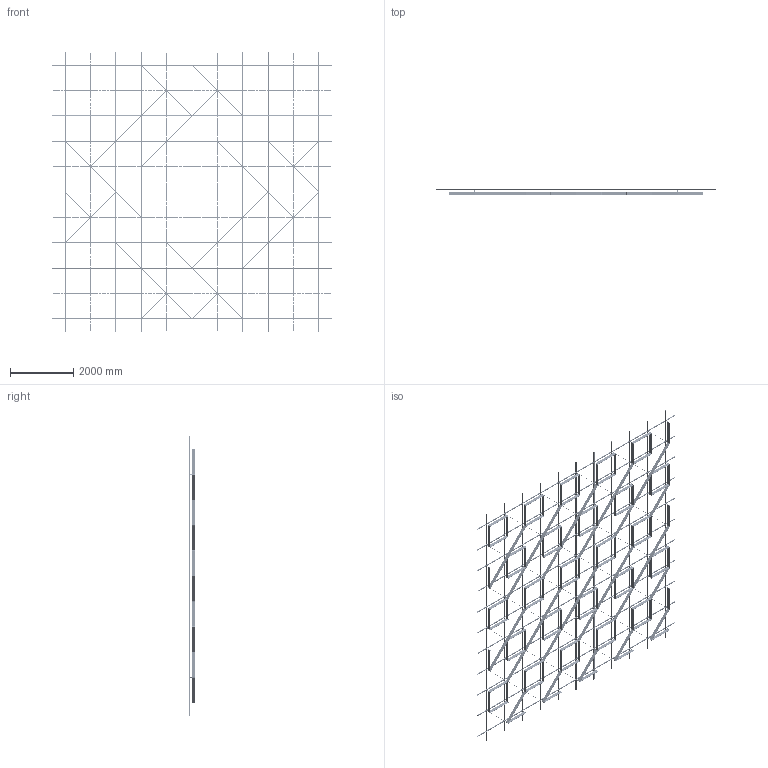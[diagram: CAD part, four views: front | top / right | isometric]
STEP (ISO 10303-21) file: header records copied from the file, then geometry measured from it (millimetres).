
FILE_DESCRIPTION (( 'STEP AP203' ), '1' );
FILE_NAME ('27 ìèäè ñ ïñ.step', '2025-11-26T11:55:09', ( '' ), ( '' ), 'SwSTEP 2.0', 'SolidWorks 2020', '' );
FILE_SCHEMA (( 'CONFIG_CONTROL_DESIGN' ));
Length unit declared in the file: millimetre
Products named in the file (5): SS.SEMA.2400 - Ñèìà-ïðîôèëü; 27 ìèäè ñ ïñ; Ñèñòåìà â çîíå 8000õ8000; SS.SEMA.2400 - Ñèìà-ïðîôèëü — îáðåçàí 1600; 謶鎷ar27
Assembly tree (90 placements, depth 3):
  27 ìèäè ñ ïñ
    Ñèñòåìà â çîíå 8000õ8000
      SS.SEMA.2400 - Ñèìà-ïðîôèëü  x66
      SS.SEMA.2400 - Ñèìà-ïðîôèëü — îáðåçàí 1600  x22
    謶鎷ar27
Bounding box: 8800 x 205 x 8800 mm (x, y, z)
Volume: 156342697 mm3; surface area: 65575326.6 mm2
Topology: 753 solids, 753 shells, 19530 faces, 52664 edges, 34640 vertices
Faces by surface type: cylinder 12818, plane 6712
Entity records: 84841 total; most frequent: CARTESIAN_POINT 19744, DIRECTION 12254, ORIENTED_EDGE 12176, EDGE_CURVE 6088, AXIS2_PLACEMENT_3D 5878, VERTEX_POINT 4048, EDGE_LOOP 3536, ADVANCED_FACE 3374
